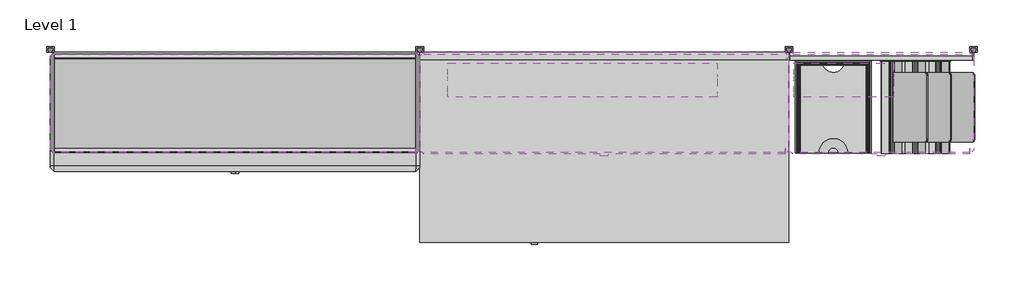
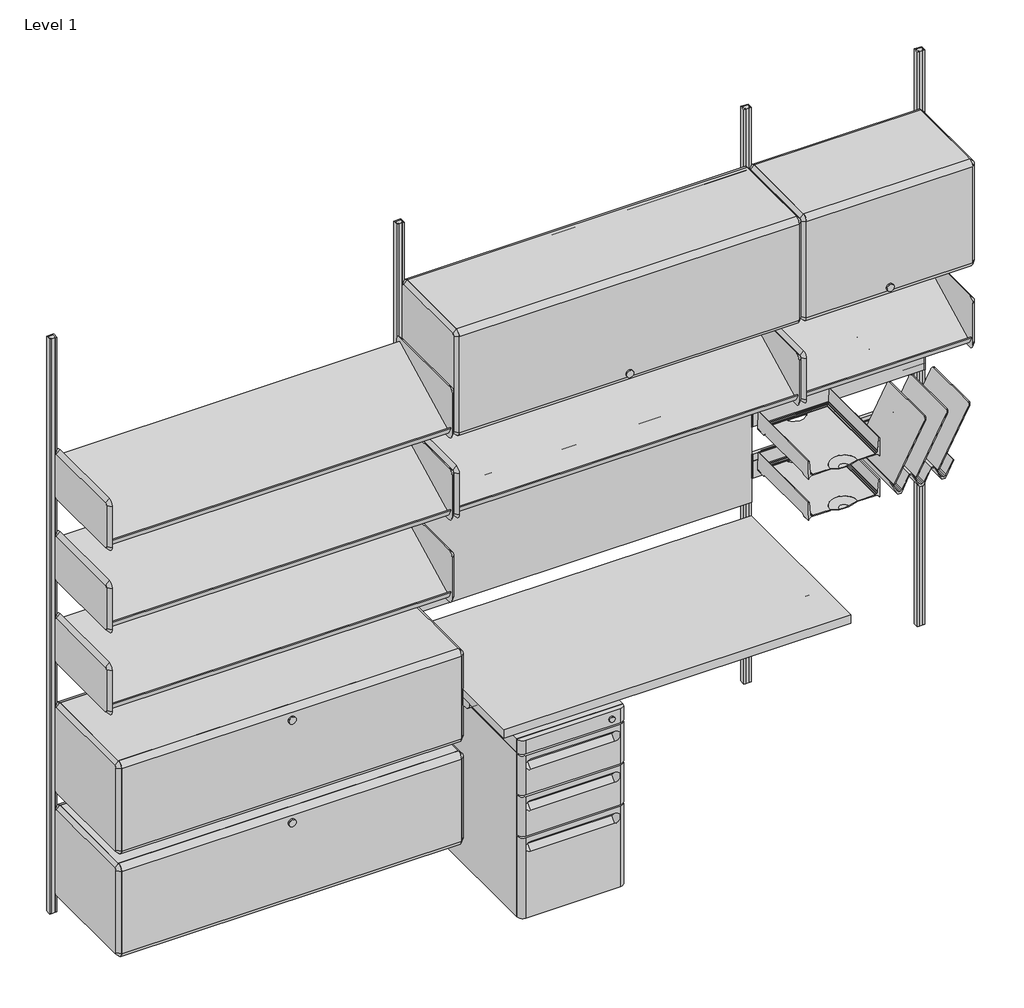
# One storey, incomplete: 21 furniture elements, 2 light fixtures.
"""IFC4 building model written with IfcOpenShell, lengths in millimetres."""

from ifc_helpers import new_model, si_unit, origin, place, context, project, spatial, transform, mapped, element, save
from components import furniture_7da167ec, furniture_17bfd149, furniture_cb78dd66, furniture_7d92ce93, furniture_043fa3d8, furniture_083a197f, furniture_e2b42103, furniture_fea97cc0, furniture_03e73c74, furniture_d3ea2044, furniture_439dfb7c, furniture_33cd207f, furniture_f1771141, furniture_1bbfda2c, furniture_9f56e1c8, furniture_ea425779, light_fixture_6c250f8a, light_fixture_601a4b46

model = new_model("IFC4")

# Units and contexts
model_context = context("Model", 3, world=origin())
ifc_project = project(units=[si_unit("LENGTHUNIT", "METRE", prefix="MILLI")], contexts=[model_context])

# Site, building, storey
site = spatial("IfcSite", under=ifc_project)
building = spatial("IfcBuilding", under=site)
storey = spatial("IfcBuildingStorey", under=building, Name="Level 1", Elevation=0.0)

# Furniture
placement = place(None, origin())
furniture_shape = furniture_7da167ec(model_context)
element("IfcFurniture", 1, ObjectType="HermanMiller_Quadrant_G5110_B-PullFreestandingPedestal : 26-1/2\"H x 20\"D x 15\"W BBF", at=placement, inside=storey, context=model_context, shape_type="MappedRepresentation", body=[
    mapped(furniture_shape, transform((1462.2907, -398.4625, 0.0), x_axis=(1.0, 0.0, 0.0), y_axis=(0.0, 1.0, 0.0), z_axis=(0.0, 0.0, 1.0))),
])
furniture_2_shape = furniture_17bfd149(model_context)
element("IfcFurniture", 2, ObjectType="HermanMiller_ActionOffice_A3610_ToolBar : 4\"H x 24\"W", at=placement, inside=storey, context=model_context, shape_type="MappedRepresentation", body=[
    mapped(furniture_2_shape, transform((2743.2, -31.7499996, 0.0), x_axis=(1.0, 0.0, 0.0), y_axis=(0.0, 1.0, 0.0), z_axis=(0.0, 0.0, 1.0))),
])
furniture_3_shape = furniture_cb78dd66(model_context)
element("IfcFurniture", 3, ObjectType="HermanMiller_ActionOffice_A3410_B-StyleTackboard : 16\"H x 48\"W", at=placement, inside=storey, context=model_context, shape_type="MappedRepresentation", body=[
    mapped(furniture_3_shape, transform((1828.8, -31.57474, 0.0), x_axis=(-1.0, 0.0, 0.0), y_axis=(0.0, -1.0, 0.0), z_axis=(0.0, 0.0, 1.0))),
])
furniture_4_shape = furniture_7d92ce93(model_context)
element("IfcFurniture", 4, ObjectType="HermanMiller_ThrivePortfolio_Y7216_PaperTray : 3\"H x 12\"D x 10\"W", at=placement, inside=storey, context=model_context, shape_type="MappedRepresentation", body=[
    mapped(furniture_4_shape, transform((2584.73956, -198.55688, 0.0), x_axis=(1.0, 0.0, 0.0), y_axis=(0.0, 1.0, 0.0), z_axis=(0.0, 0.0, 1.0))),
])
furniture_5_shape = furniture_043fa3d8(model_context)
element("IfcFurniture", 5, ObjectType="HermanMiller_ThrivePortfolio_Y7218_DiagonalTray : 8 1/2\"H x 12\"D x 13\"W", at=placement, inside=storey, context=model_context, shape_type="MappedRepresentation", body=[
    mapped(furniture_5_shape, transform((2856.156097, -199.6694, 0.0), x_axis=(1.0, 0.0, 0.0), y_axis=(0.0, 1.0, 0.0), z_axis=(0.0, 0.0, 1.0))),
])
furniture_6_shape = furniture_083a197f(model_context)
element("IfcFurniture", 6, ObjectType="HermanMiller_ActionOffice_A2310_Sq-EdgeRectangularWorkSurface : 24\"D x 48\"W", at=placement, inside=storey, context=model_context, shape_type="MappedRepresentation", body=[
    mapped(furniture_6_shape, transform((1828.8, -333.375, 0.0), x_axis=(1.0, 0.0, 0.0), y_axis=(0.0, 1.0, 0.0), z_axis=(0.0, 0.0, 1.0))),
])
furniture_7_shape = furniture_e2b42103(model_context)
element("IfcFurniture", 7, ObjectType="HermanMiller_ActionOffice_A3610_ToolBar : 4\"H x 24\"W", at=placement, inside=storey, context=model_context, shape_type="MappedRepresentation", body=[
    mapped(furniture_7_shape, transform((2743.2, -31.7499996, 0.0), x_axis=(1.0, 0.0, 0.0), y_axis=(0.0, 1.0, 0.0), z_axis=(0.0, 0.0, 1.0))),
])
furniture_8_shape = furniture_fea97cc0(model_context)
element("IfcFurniture", 8, ObjectType="HermanMiller_ActionOffice_A3352_B-StyleFlipperDoorUnit : 15 1/2\"H x 13\"D x 24\"W", at=placement, inside=storey, context=model_context, shape_type="MappedRepresentation", body=[
    mapped(furniture_8_shape, transform((2743.2, -200.025, 0.0), x_axis=(1.0, 0.0, 0.0), y_axis=(0.0, 1.0, 0.0), z_axis=(0.0, 0.0, 1.0))),
])
furniture_9_shape = furniture_03e73c74(model_context)
element("IfcFurniture", 9, ObjectType="HermanMiller_ActionOffice_A3220_B-StyleStorageDisplay : Display 13\"D x 24\"W", at=placement, inside=storey, context=model_context, shape_type="MappedRepresentation", body=[
    mapped(furniture_9_shape, transform((2867.1420045, -200.025, 0.0), x_axis=(1.0, 0.0, 0.0), y_axis=(0.0, 1.0, 0.0), z_axis=(0.0, 0.0, 1.0))),
])
furniture_10_shape = furniture_d3ea2044(model_context)
element("IfcFurniture", 10, ObjectType="HermanMiller_ThrivePortfolio_Y7216_PaperTray : 3\"H x 12\"D x 10\"W", at=placement, inside=storey, context=model_context, shape_type="MappedRepresentation", body=[
    mapped(furniture_10_shape, transform((2584.73956, -198.55688, 0.0), x_axis=(1.0, 0.0, 0.0), y_axis=(0.0, 1.0, 0.0), z_axis=(0.0, 0.0, 1.0))),
])
furniture_11_shape = furniture_439dfb7c(model_context)
element("IfcFurniture", 11, ObjectType="HermanMiller_ActionOffice_A3220_B-StyleStorageDisplay : Display 13\"D x 48\"W", at=placement, inside=storey, context=model_context, shape_type="MappedRepresentation", body=[
    mapped(furniture_11_shape, transform((1952.7420045, -200.025, 0.0), x_axis=(1.0, 0.0, 0.0), y_axis=(0.0, 1.0, 0.0), z_axis=(0.0, 0.0, 1.0))),
])
element("IfcFurniture", 12, ObjectType="HermanMiller_ActionOffice_A3220_B-StyleStorageDisplay : Display 13\"D x 48\"W", at=placement, inside=storey, context=model_context, shape_type="MappedRepresentation", body=[
    mapped(furniture_11_shape, transform((733.5420045, -200.025, 0.0), x_axis=(1.0, 0.0, 0.0), y_axis=(0.0, 1.0, 0.0), z_axis=(0.0, 0.0, 1.0))),
])
furniture_12_shape = furniture_33cd207f(model_context)
element("IfcFurniture", 13, ObjectType="HermanMiller_ActionOffice_A3352_B-StyleFlipperDoorUnit : 15 1/2\"H x 13\"D x 48\"W", at=placement, inside=storey, context=model_context, shape_type="MappedRepresentation", body=[
    mapped(furniture_12_shape, transform((1828.8, -200.025, 0.0), x_axis=(1.0, 0.0, 0.0), y_axis=(0.0, 1.0, 0.0), z_axis=(0.0, 0.0, 1.0))),
])
furniture_13_shape = furniture_f1771141(model_context)
element("IfcFurniture", 14, ObjectType="HermanMiller_ActionOffice_A3121_B-StyleSuspendedLateralFile : 16\"D x 48\"W", at=placement, inside=storey, context=model_context, shape_type="MappedRepresentation", body=[
    mapped(furniture_13_shape, transform((609.6, -228.6, 0.0), x_axis=(1.0, 0.0, 0.0), y_axis=(0.0, 1.0, 0.0), z_axis=(0.0, 0.0, 1.0))),
])
element("IfcFurniture", 15, ObjectType="HermanMiller_ActionOffice_A3121_B-StyleSuspendedLateralFile : 16\"D x 48\"W", at=placement, inside=storey, context=model_context, shape_type="MappedRepresentation", body=[
    mapped(furniture_13_shape, transform((609.6, -228.6, 381.0), x_axis=(1.0, 0.0, 0.0), y_axis=(0.0, 1.0, 0.0), z_axis=(0.0, 0.0, 1.0))),
])
furniture_14_shape = furniture_1bbfda2c(model_context)
element("IfcFurniture", 16, ObjectType="HermanMiller_ActionOffice_A3220_B-StyleStorageDisplay : Display 13\"D x 48\"W", at=placement, inside=storey, context=model_context, shape_type="MappedRepresentation", body=[
    mapped(furniture_14_shape, transform((733.5420045, -200.025, 0.0), x_axis=(1.0, 0.0, 0.0), y_axis=(0.0, 1.0, 0.0), z_axis=(0.0, 0.0, 1.0))),
])
furniture_15_shape = furniture_9f56e1c8(model_context)
element("IfcFurniture", 17, ObjectType="HermanMiller_ActionOffice_A3220_B-StyleStorageDisplay : Display 13\"D x 48\"W", at=placement, inside=storey, context=model_context, shape_type="MappedRepresentation", body=[
    mapped(furniture_15_shape, transform((733.5420045, -200.025, 0.0), x_axis=(1.0, 0.0, 0.0), y_axis=(0.0, 1.0, 0.0), z_axis=(0.0, 0.0, 1.0))),
])
furniture_16_shape = furniture_ea425779(model_context)
element("IfcFurniture", 18, ObjectType="HermanMiller_ActionOffice_AO213_WallStrip : 84\"H", at=placement, inside=storey, context=model_context, shape_type="MappedRepresentation", body=[
    mapped(furniture_16_shape, transform((3048.0, 0.0, 0.0), x_axis=(1.0, 0.0, 0.0), y_axis=(0.0, 1.0, 0.0), z_axis=(0.0, 0.0, 1.0))),
])
element("IfcFurniture", 19, ObjectType="HermanMiller_ActionOffice_AO213_WallStrip : 84\"H", at=placement, inside=storey, context=model_context, shape_type="MappedRepresentation", body=[
    mapped(furniture_16_shape, transform((2438.4, 0.0, 0.0), x_axis=(1.0, 0.0, 0.0), y_axis=(0.0, 1.0, 0.0), z_axis=(0.0, 0.0, 1.0))),
])
element("IfcFurniture", 20, ObjectType="HermanMiller_ActionOffice_AO213_WallStrip : 84\"H", at=placement, inside=storey, context=model_context, shape_type="MappedRepresentation", body=[
    mapped(furniture_16_shape, transform((1219.2, 0.0, 0.0), x_axis=(1.0, 0.0, 0.0), y_axis=(0.0, 1.0, 0.0), z_axis=(0.0, 0.0, 1.0))),
])
element("IfcFurniture", 21, ObjectType="HermanMiller_ActionOffice_AO213_WallStrip : 84\"H", at=placement, inside=storey, context=model_context, shape_type="MappedRepresentation", body=[
    mapped(furniture_16_shape, transform((0.0, 0.0, 0.0), x_axis=(1.0, 0.0, 0.0), y_axis=(0.0, 1.0, 0.0), z_axis=(0.0, 0.0, 1.0))),
])

# Light fixtures
light_fixture_shape = light_fixture_6c250f8a(model_context)
element("IfcLightFixture", 22, ObjectType="HermanMiller_SupplementalProducts_G6136_UtilityTaskLight : AO Etho Canvas 24W", at=placement, inside=storey, context=model_context, shape_type="MappedRepresentation", body=[
    mapped(light_fixture_shape, transform((2619.629, -111.125, 0.0), x_axis=(1.0, 0.0, 0.0), y_axis=(0.0, 1.0, 0.0), z_axis=(0.0, 0.0, 1.0))),
])
light_fixture_2_shape = light_fixture_601a4b46(model_context)
element("IfcLightFixture", 23, ObjectType="HermanMiller_SupplementalProducts_G6136_UtilityTaskLight : AO Etho Canvas 42W", at=placement, inside=storey, context=model_context, shape_type="MappedRepresentation", body=[
    mapped(light_fixture_2_shape, transform((1756.918, -111.125, 0.0), x_axis=(1.0, 0.0, 0.0), y_axis=(0.0, 1.0, 0.0), z_axis=(0.0, 0.0, 1.0))),
])

save(model, "model.ifc")
